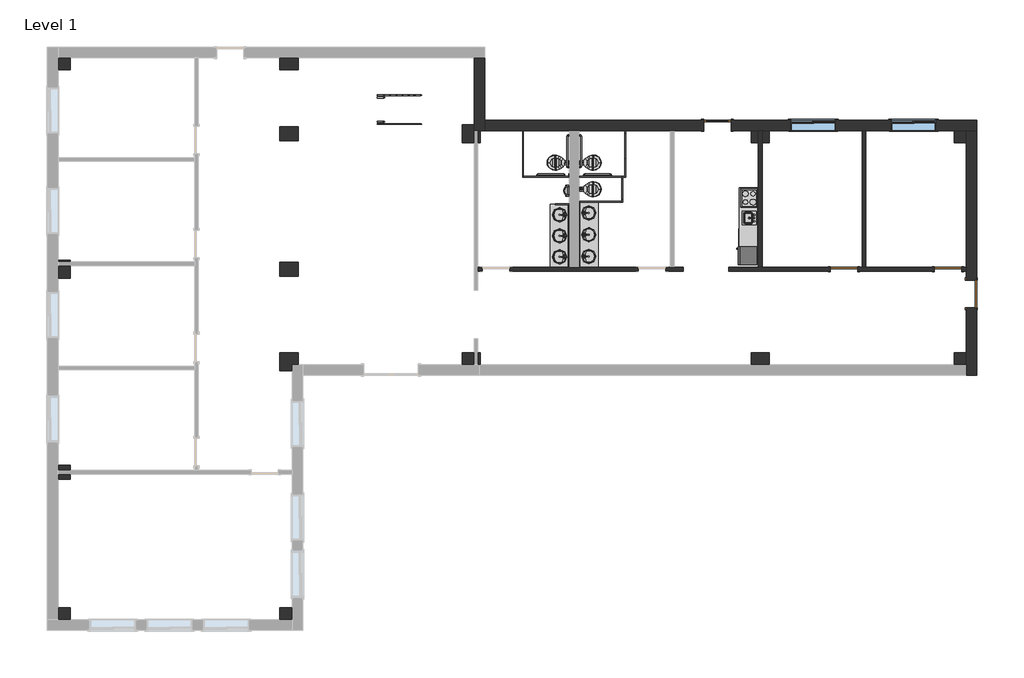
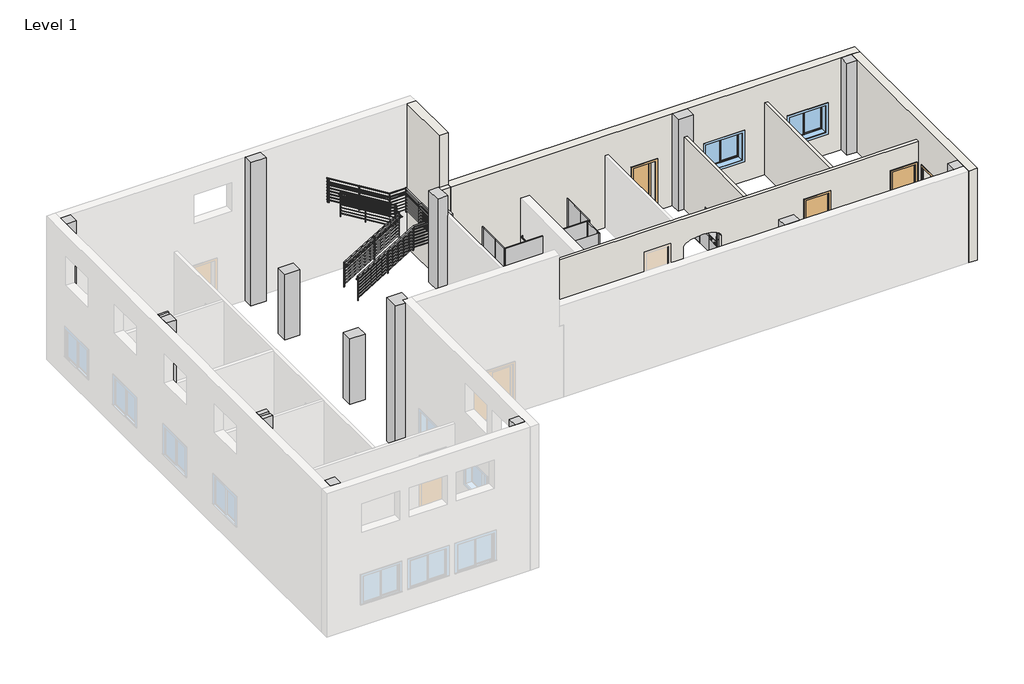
# One storey, part 2 of 2: 15 columns, 13 proxies, 11 flow terminals, 6 walls, 4 doors, 3 furniture elements, 2 railings, 2 windows.
"""IFC4 building model written with IfcOpenShell, lengths in millimetres."""

from ifc_helpers import new_model, si_unit, point, frame, origin, origin_with_axes, place, context, project, spatial, polyline, ellipse_curve, trimmed, outline, extrude, faceted_brep, transform, mapped, element, save
from ifc_brep_helpers import plane_surface, extruded_surface, advanced_brep
from components import specialty_equipment_fe47f8b8, specialty_equipment_a66543ee, specialty_equipment_0732ba0f, proxy_75c98dfb, proxy_14d97774, proxy_deb97b80, proxy_a6faaae8, proxy_45b28599, grab_bar_3d_grab_bar_3d_00f4341b, grab_bar_3d_grab_bar_3d_a3ed3e83, kitchenette_medium_kitchenette_medium_844211aa, proxy_c523a7b7, door_cc5399a4, door_88503111, door_14e9a3b2, flow_terminal_871c2e40, flow_terminal_5184717d, flow_terminal_4f17df5f, flow_terminal_f7b7a87d, urinal_wall_3d_urinal_wall_3d_b67806af, furniture_c6510c7c, furniture_b8c66f15, furniture_0f6f437d, guardrail_pipe_ca991ecf, guardrail_pipe_215c56c1, window_8313e728

model = new_model("IFC4")

# Units and contexts
model_context = context("Model", 3, world=origin())
ifc_project = project(units=[si_unit("LENGTHUNIT", "METRE", prefix="MILLI")], contexts=[model_context])

# Site, building, storey
site = spatial("IfcSite", under=ifc_project)
building = spatial("IfcBuilding", under=site)
storey = spatial("IfcBuildingStorey", under=building, Name="Level 1", Elevation=0.0)

# Proxies
placement = place(None, origin())
specialty_equipment_shape = specialty_equipment_fe47f8b8(model_context)
element("IfcBuildingElementProxy", 1, Name="Dispencer-Toilet Paper-2D : Dispencer-Toilet Paper-2D", ObjectType="Dispencer-Toilet Paper-2D : Dispencer-Toilet Paper-2D", at=placement, inside=storey, context=model_context, shape_type="MappedRepresentation", body=[
    mapped(specialty_equipment_shape, transform((3856.5733448, 6606.3605424, 0.0), x_axis=(0.0, -1.0, 0.0), y_axis=(1.0, 0.0, 0.0), z_axis=(0.0, 0.0, 1.0))),
])
specialty_equipment_2_shape = specialty_equipment_a66543ee(model_context)
element("IfcBuildingElementProxy", 2, Name="Dispencer-Toilet Paper-2D : Dispencer-Toilet Paper-2D", ObjectType="Dispencer-Toilet Paper-2D : Dispencer-Toilet Paper-2D", at=placement, inside=storey, context=model_context, shape_type="MappedRepresentation", body=[
    mapped(specialty_equipment_2_shape, transform((3513.6733448, 6606.3605424, 0.0), x_axis=(0.0, -1.0, 0.0), y_axis=(1.0, 0.0, 0.0), z_axis=(0.0, 0.0, 1.0))),
])
element("IfcBuildingElementProxy", 3, Name="Dispencer-Toilet Paper-2D : Dispencer-Toilet Paper-2D", ObjectType="Dispencer-Toilet Paper-2D : Dispencer-Toilet Paper-2D", at=placement, inside=storey, context=model_context, shape_type="MappedRepresentation", body=[
    mapped(specialty_equipment_2_shape, transform((3856.5733448, 6580.9605424, 0.0), x_axis=(0.0, 1.0, 0.0), y_axis=(-1.0, 0.0, 0.0), z_axis=(0.0, 0.0, 1.0))),
])
specialty_equipment_3_shape = specialty_equipment_0732ba0f(model_context)
element("IfcBuildingElementProxy", 4, Name="Urinal Screen-3D w Urinal : 36\" O.C.", ObjectType="Urinal Screen-3D w Urinal : 36\" O.C.", at=placement, inside=storey, context=model_context, shape_type="MappedRepresentation", body=[
    mapped(specialty_equipment_3_shape, transform((3685.1233448, 5666.5605424, 0.0), x_axis=(0.0, 1.0, 0.0), y_axis=(-1.0, 0.0, 0.0), z_axis=(0.0, 0.0, 1.0))),
])
proxy_shape = proxy_75c98dfb(model_context)
element("IfcBuildingElementProxy", 5, Name="Toilet Stall-3D w Toilet : 32\" x 56\" Clear", ObjectType="Toilet Stall-3D w Toilet : 32\" x 56\" Clear", at=placement, inside=storey, context=model_context, shape_type="MappedRepresentation", body=[
    mapped(proxy_shape, transform((3685.1233448, 5769.6573886, 0.0), x_axis=(0.0, 1.0, 0.0), y_axis=(-1.0, 0.0, 0.0), z_axis=(0.0, 0.0, 1.0))),
])
proxy_2_shape = proxy_14d97774(model_context)
element("IfcBuildingElementProxy", 6, Name="Toilet Stall-Accessible-Front-3D w Toilet : 60\" x 60\" Clear", ObjectType="Toilet Stall-Accessible-Front-3D w Toilet : 60\" x 60\" Clear", at=placement, inside=storey, context=model_context, shape_type="MappedRepresentation", body=[
    mapped(proxy_2_shape, transform((3685.1233448, 6658.6573886, 0.0), x_axis=(0.0, 1.0, 0.0), y_axis=(-1.0, 0.0, 0.0), z_axis=(0.0, 0.0, 1.0))),
])
proxy_3_shape = proxy_deb97b80(model_context)
element("IfcBuildingElementProxy", 7, Name="Toilet Stall-Accessible-Front-3D w Toilet : 60\" x 60\" Clear", ObjectType="Toilet Stall-Accessible-Front-3D w Toilet : 60\" x 60\" Clear", at=placement, inside=storey, context=model_context, shape_type="MappedRepresentation", body=[
    mapped(proxy_3_shape, transform((3685.1233448, 6658.6573886, 0.0), x_axis=(0.0, 1.0, 0.0), y_axis=(-1.0, 0.0, 0.0), z_axis=(0.0, 0.0, 1.0))),
])
proxy_4_shape = proxy_a6faaae8(model_context)
element("IfcBuildingElementProxy", 8, Name="Cook Top-4 Unit2 : 22\" x 20\"", ObjectType="Cook Top-4 Unit2 : 22\" x 20\"", at=placement, inside=storey, context=model_context, shape_type="MappedRepresentation", body=[
    mapped(proxy_4_shape, transform((9542.9983448, 5882.4605424, 0.0), x_axis=(0.0, -1.0, 0.0), y_axis=(1.0, 0.0, 0.0), z_axis=(0.0, 0.0, 1.0))),
])
proxy_5_shape = proxy_45b28599(model_context)
element("IfcBuildingElementProxy", 9, Name="Dishwasher : 24\" x 24\" x 34\"", ObjectType="Dishwasher : 24\" x 24\" x 34\"", at=placement, inside=storey, context=model_context, shape_type="MappedRepresentation", body=[
    mapped(proxy_5_shape, transform((9251.14878, 4931.2780109, 0.0), x_axis=(0.0, -1.0, 0.0), y_axis=(1.0, 0.0, 0.0), z_axis=(0.0, 0.0, 1.0))),
])
grab_bar_3d_grab_bar_3d_shape = grab_bar_3d_grab_bar_3d_00f4341b(model_context)
element("IfcBuildingElementProxy", 10, Name="Grab Bar-3D : Grab Bar-3D", ObjectType="Grab Bar-3D : Grab Bar-3D", at=placement, inside=storey, context=model_context, shape_type="MappedRepresentation", body=[
    mapped(grab_bar_3d_grab_bar_3d_shape, transform((3513.6733448, 6606.3605424, 0.0), x_axis=(1.0, 0.0, 0.0), y_axis=(0.0, 1.0, 0.0), z_axis=(0.0, 0.0, 1.0))),
])
grab_bar_3d_grab_bar_3d_2_shape = grab_bar_3d_grab_bar_3d_a3ed3e83(model_context)
element("IfcBuildingElementProxy", 11, Name="Grab Bar-3D : Grab Bar-3D", ObjectType="Grab Bar-3D : Grab Bar-3D", at=placement, inside=storey, context=model_context, shape_type="MappedRepresentation", body=[
    mapped(grab_bar_3d_grab_bar_3d_2_shape, transform((3856.5733448, 6606.3605424, 0.0), x_axis=(-1.0, 0.0, 0.0), y_axis=(0.0, -1.0, 0.0), z_axis=(0.0, 0.0, 1.0))),
])
kitchenette_medium_kitchenette_medium_shape = kitchenette_medium_kitchenette_medium_844211aa(model_context)
element("IfcBuildingElementProxy", 12, Name="Kitchenette - Medium : Kitchenette - Medium", ObjectType="Kitchenette - Medium : Kitchenette - Medium", at=placement, inside=storey, context=model_context, shape_type="MappedRepresentation", body=[
    mapped(kitchenette_medium_kitchenette_medium_shape, transform((9847.7983448, 5558.2982474, 0.0), x_axis=(0.0, -1.0, 0.0), y_axis=(1.0, 0.0, 0.0), z_axis=(0.0, 0.0, 1.0))),
])
proxy_6_shape = proxy_c523a7b7(model_context)
element("IfcBuildingElementProxy", 13, Name="Refrigerator : 24\" x 25\" LH", ObjectType="Refrigerator : 24\" x 25\" LH", at=placement, inside=storey, context=model_context, shape_type="MappedRepresentation", body=[
    mapped(proxy_6_shape, transform((9497.3493733, 3945.7105424, 0.0), x_axis=(0.0, -1.0, 0.0), y_axis=(1.0, 0.0, 0.0), z_axis=(0.0, 0.0, 1.0))),
])

# Columns
element("IfcColumn", 14, ObjectType="Rectangular Column : 18\" x 24\"", at=placement, inside=storey, context=model_context, shape_type="SweptSolid", body=[
    extrude(outline(polyline([(-3066.2769576, 6100.0), (-3066.2769576, 0.0), (-3232.9644576, 0.0), (-3232.9644576, 3060.0), (-3232.9644576, 6100.0), (-3066.2769576, 6100.0)])), frame((-13583.7016552, 0.0, 0.0), z_axis=(1.0, 0.0, 0.0), x_axis=(0.0, 1.0, 0.0)), (0.0, 0.0, 1.0), 406.4),
    extrude(outline(polyline([(-3523.4769576, 0.0), (-3523.4769576, 6100.0), (-3356.7894576, 6100.0), (-3356.7894576, 3060.0), (-3356.7894576, 0.0), (-3523.4769576, 0.0)])), frame((-13583.7016552, 0.0, 0.0), z_axis=(1.0, 0.0, 0.0), x_axis=(0.0, 1.0, 0.0)), (0.0, 0.0, 1.0), 406.4),
])
element("IfcColumn", 15, ObjectType="Rectangular Column : 18\" x 24\"", at=placement, inside=storey, context=model_context, shape_type="SweptSolid", body=[
    extrude(outline(polyline([(-5550.9516552, 3725.0480424), (-5550.9516552, 3267.8480424), (-6160.5516552, 3267.8480424), (-6160.5516552, 3725.0480424), (-5550.9516552, 3725.0480424)])), origin_with_axes(), (0.0, 0.0, 1.0), 2782.4),
])
element("IfcColumn", 16, ObjectType="Rectangular Column : 18\" x 24\"", at=placement, inside=storey, context=model_context, shape_type="SweptSolid", body=[
    extrude(outline(polyline([(-5550.9516552, 8257.3605424), (-5550.9516552, 7800.1605424), (-6160.5516552, 7800.1605424), (-6160.5516552, 8257.3605424), (-5550.9516552, 8257.3605424)])), origin_with_axes(), (0.0, 0.0, 1.0), 2782.4),
])
element("IfcColumn", 17, ObjectType="Rectangular Column : 24\" x 24\"", at=placement, inside=storey, context=model_context, shape_type="SweptSolid", body=[
    extrude(outline(polyline([(-13177.3016552, 10162.3605424), (-13583.7016552, 10162.3605424), (-13583.7016552, 10568.7605424), (-13177.3016552, 10568.7605424), (-13177.3016552, 10162.3605424)])), origin_with_axes(), (0.0, 0.0, 1.0), 6100.0),
])
element("IfcColumn", 18, ObjectType="Rectangular Column : 24\" x 24\"", at=placement, inside=storey, context=model_context, shape_type="SweptSolid", body=[
    extrude(outline(polyline([(3729.8105424, 6100.0), (3801.2480424, 6100.0), (3801.2480424, 0.0), (3743.3042924, 0.0), (3743.3042924, 3060.0), (3729.8105424, 3060.0), (3729.8105424, 6100.0)])), frame((-13583.7016552, 0.0, 0.0), z_axis=(1.0, 0.0, 0.0), x_axis=(0.0, 1.0, 0.0)), (0.0, 0.0, 1.0), 406.4),
    extrude(outline(polyline([(3191.6480424, 6100.0), (3605.9855424, 6100.0), (3605.9855424, 3060.0), (3619.4792924, 3060.0), (3619.4792924, 0.0), (3191.6480424, 0.0), (3191.6480424, 6100.0)])), frame((-13583.7016552, 0.0, 0.0), z_axis=(1.0, 0.0, 0.0), x_axis=(0.0, 1.0, 0.0)), (0.0, 0.0, 1.0), 406.4),
])
element("IfcColumn", 19, ObjectType="Rectangular Column : 24\" x 24\"", at=placement, inside=storey, context=model_context, shape_type="SweptSolid", body=[
    extrude(outline(polyline([(-13177.3016552, -7827.1894576), (-13177.3016552, -8233.5894576), (-13583.7016552, -8233.5894576), (-13583.7016552, -7827.1894576), (-13177.3016552, -7827.1894576)])), origin_with_axes(), (0.0, 0.0, 1.0), 6100.0),
])
element("IfcColumn", 20, ObjectType="Rectangular Column : 24\" x 24\"", at=placement, inside=storey, context=model_context, shape_type="SweptSolid", body=[
    extrude(outline(polyline([(-6160.5516552, -7827.1894576), (-5754.1516552, -7827.1894576), (-5754.1516552, -8233.5894576), (-6160.5516552, -8233.5894576), (-6160.5516552, -7827.1894576)])), origin_with_axes(), (0.0, 0.0, 1.0), 6100.0),
])
element("IfcColumn", 21, ObjectType="Rectangular Column : 24\" x 24\"", at=placement, inside=storey, context=model_context, shape_type="SweptSolid", body=[
    extrude(outline(polyline([(-6160.5516552, 97.6105424), (-6160.5516552, 707.2105424), (-5550.9516552, 707.2105424), (-5550.9516552, 300.8105424), (-5754.1516552, 300.8105424), (-5754.1516552, 97.6105424), (-6160.5516552, 97.6105424)])), origin_with_axes(), (0.0, 0.0, 1.0), 6100.0),
])
element("IfcColumn", 22, ObjectType="Rectangular Column : 24\" x 24\"", at=placement, inside=storey, context=model_context, shape_type="SweptSolid", body=[
    extrude(outline(polyline([(3900.0, 341.8483448), (3900.0, -64.5516552), (0.0, -64.5516552), (0.0, 341.8483448), (3060.0, 341.8483448), (3900.0, 341.8483448)])), frame((0.0, 300.8105424, 0.0), z_axis=(0.0, 1.0, 0.0), x_axis=(0.0, 0.0, 1.0)), (0.0, 0.0, 1.0), 406.4),
    extrude(outline(polyline([(465.6733448, 707.2105424), (545.0483448, 707.2105424), (545.0483448, 300.8105424), (518.0608448, 300.8105424), (465.6733448, 300.8105424), (465.6733448, 707.2105424)])), origin_with_axes(), (0.0, 0.0, 1.0), 3060.0),
])
element("IfcColumn", 23, ObjectType="Rectangular Column : 24\" x 24\"", at=placement, inside=storey, context=model_context, shape_type="Brep", body=[
    faceted_brep([(-64.5516552, 8333.5605424, 3900.0), (-64.5516552, 7723.9605424, 3900.0), (341.8483448, 7723.9605424, 3900.0), (341.8483448, 8130.3605424, 3900.0), (341.8483448, 8306.5730424, 3900.0), (341.8483448, 8333.5605424, 3900.0), (-64.5516552, 7723.9605424, 0.0), (-64.5516552, 8333.5605424, 0.0), (341.8483448, 8333.5605424, 0.0), (341.8483448, 8130.3605424, 0.0), (341.8483448, 7723.9605424, 0.0), (341.8483448, 7723.9605424, 3060.0), (341.8483448, 8130.3605424, 3060.0)], [[[0, 1, 2, 3, 4, 5]], [[6, 7, 8, 9, 10]], [[7, 0, 5, 8]], [[1, 0, 7, 6]], [[1, 6, 10, 11, 2]], [[10, 9, 12, 11]], [[3, 2, 11, 12]], [[5, 4, 3, 12, 9, 8]]]),
    faceted_brep([(545.0483448, 7723.9605424, 3060.0), (545.0483448, 7723.9605424, 0.0), (545.0483448, 8130.3605424, 0.0), (545.0483448, 8130.3605424, 3060.0), (465.6733448, 8130.3605424, 0.0), (465.6733448, 7723.9605424, 0.0), (465.6733448, 7723.9605424, 3060.0), (465.6733448, 8130.3605424, 3060.0)], [[[0, 1, 2, 3]], [[4, 5, 6, 7]], [[6, 0, 3, 7]], [[5, 1, 0, 6]], [[2, 4, 7, 3]], [[1, 5, 4, 2]]]),
])
element("IfcColumn", 24, ObjectType="Rectangular Column : 24\" x 24\"", at=placement, inside=storey, context=model_context, shape_type="SweptSolid", body=[
    extrude(outline(polyline([(3900.0, 10214.5108448), (3900.0, 9604.9108448), (0.0, 9604.9108448), (0.0, 9847.7983448), (3060.0, 9847.7983448), (3060.0, 9971.6233448), (0.0, 9971.6233448), (0.0, 10214.5108448), (3900.0, 10214.5108448)])), frame((0.0, 7723.9605424, 0.0), z_axis=(0.0, 1.0, 0.0), x_axis=(0.0, 0.0, 1.0)), (0.0, 0.0, 1.0), 406.4),
])
element("IfcColumn", 25, ObjectType="Rectangular Column : 24\" x 24\"", at=placement, inside=storey, context=model_context, shape_type="SweptSolid", body=[
    extrude(outline(polyline([(16394.6483448, 7723.9605424), (16394.6483448, 8130.3605424), (16801.0483448, 8130.3605424), (16801.0483448, 7723.9605424), (16394.6483448, 7723.9605424)])), origin_with_axes(), (0.0, 0.0, 1.0), 3900.0),
])
element("IfcColumn", 26, ObjectType="Rectangular Column : 24\" x 24\"", at=placement, inside=storey, context=model_context, shape_type="SweptSolid", body=[
    extrude(outline(polyline([(16394.6483448, 707.2105424), (16801.0483448, 707.2105424), (16801.0483448, 300.8105424), (16394.6483448, 300.8105424), (16394.6483448, 707.2105424)])), origin_with_axes(), (0.0, 0.0, 1.0), 3900.0),
])
element("IfcColumn", 27, ObjectType="Rectangular Column : 24\" x 24\"", at=placement, inside=storey, context=model_context, shape_type="SweptSolid", body=[
    extrude(outline(polyline([(9604.9108448, 707.2105424), (10214.5108448, 707.2105424), (10214.5108448, 300.8105424), (9604.9108448, 300.8105424), (9604.9108448, 707.2105424)])), origin_with_axes(), (0.0, 0.0, 1.0), 3900.0),
])
element("IfcColumn", 28, ObjectType="Rectangular Column : 24\" x 24\"", at=placement, inside=storey, context=model_context, shape_type="SweptSolid", body=[
    extrude(outline(polyline([(-5550.9516552, 10162.3605424), (-6160.5516552, 10162.3605424), (-6160.5516552, 10568.7605424), (-5550.9516552, 10568.7605424), (-5550.9516552, 10162.3605424)])), origin_with_axes(), (0.0, 0.0, 1.0), 6100.0),
])

# Doors
door_shape = door_cc5399a4(model_context)
element("IfcDoor", 29, ObjectType="Single-Flush : 36\" x 84\"", at=placement, inside=storey, context=model_context, shape_type="MappedRepresentation", body=[
    mapped(door_shape, transform((16977.2608448, 2672.5355424, 0.0), x_axis=(0.0, 1.0, 0.0), y_axis=(-1.0, 0.0, 0.0), z_axis=(0.0, 0.0, 1.0))),
])
door_2_shape = door_88503111(model_context)
element("IfcDoor", 30, ObjectType="Single-Flush : 36\" x 84\"", at=placement, inside=storey, context=model_context, shape_type="MappedRepresentation", body=[
    mapped(door_2_shape, transform((16191.4483448, 3496.4480424, 0.0), x_axis=(1.0, 0.0, 0.0), y_axis=(0.0, 1.0, 0.0), z_axis=(0.0, 0.0, 1.0))),
])
element("IfcDoor", 31, ObjectType="Single-Flush : 36\" x 84\"", at=placement, inside=storey, context=model_context, shape_type="MappedRepresentation", body=[
    mapped(door_2_shape, transform((12714.8233448, 3496.4480424, 0.0), x_axis=(1.0, 0.0, 0.0), y_axis=(0.0, 1.0, 0.0), z_axis=(0.0, 0.0, 1.0))),
])
door_3_shape = door_14e9a3b2(model_context)
element("IfcDoor", 32, ObjectType="Single-Glass 1 : 36\" x 84\"", at=placement, inside=storey, context=model_context, shape_type="MappedRepresentation", body=[
    mapped(door_3_shape, transform((8476.1983448, 8306.5730424, 0.0), x_axis=(1.0, 0.0, 0.0), y_axis=(0.0, 1.0, 0.0), z_axis=(0.0, 0.0, 1.0))),
])

# Flow terminals
flow_terminal_shape = flow_terminal_871c2e40(model_context)
element("IfcFlowTerminal", 33, ObjectType="Sink Kitchen-Island : 18\" x 18\"", at=placement, inside=storey, context=model_context, shape_type="MappedRepresentation", body=[
    mapped(flow_terminal_shape, transform((9540.6529437, 5225.049783, -14.4), x_axis=(0.0, -1.0, 0.0), y_axis=(1.0, 0.0, 0.0), z_axis=(0.0, 0.0, 1.0))),
])
flow_terminal_2_shape = flow_terminal_5184717d(model_context)
element("IfcFlowTerminal", 34, ObjectType="Sink Vanity-Round : 19\" x 19\"", at=placement, inside=storey, context=model_context, shape_type="MappedRepresentation", body=[
    mapped(flow_terminal_2_shape, transform((4259.2410633, 5282.0421352, 76.2), x_axis=(0.0, 1.0, 0.0), y_axis=(-1.0, 0.0, 0.0), z_axis=(0.0, 0.0, 1.0))),
])
element("IfcFlowTerminal", 35, ObjectType="Sink Vanity-Round : 19\" x 19\"", at=placement, inside=storey, context=model_context, shape_type="MappedRepresentation", body=[
    mapped(flow_terminal_2_shape, transform((4259.2410633, 3825.7754686, 76.2), x_axis=(0.0, 1.0, 0.0), y_axis=(-1.0, 0.0, 0.0), z_axis=(0.0, 0.0, 1.0))),
])
element("IfcFlowTerminal", 36, ObjectType="Sink Vanity-Round : 19\" x 19\"", at=placement, inside=storey, context=model_context, shape_type="MappedRepresentation", body=[
    mapped(flow_terminal_2_shape, transform((4259.2410633, 4553.9088019, 76.2), x_axis=(0.0, 1.0, 0.0), y_axis=(-1.0, 0.0, 0.0), z_axis=(0.0, 0.0, 1.0))),
])
element("IfcFlowTerminal", 37, ObjectType="Sink Vanity-Round : 19\" x 19\"", at=placement, inside=storey, context=model_context, shape_type="MappedRepresentation", body=[
    mapped(flow_terminal_2_shape, transform((3111.0056263, 4006.3789497, 76.2), x_axis=(0.0, -1.0, 0.0), y_axis=(1.0, 0.0, 0.0), z_axis=(0.0, 0.0, 1.0))),
])
element("IfcFlowTerminal", 38, ObjectType="Sink Vanity-Round : 19\" x 19\"", at=placement, inside=storey, context=model_context, shape_type="MappedRepresentation", body=[
    mapped(flow_terminal_2_shape, transform((3111.0056263, 5411.8456163, 76.2), x_axis=(0.0, -1.0, 0.0), y_axis=(1.0, 0.0, 0.0), z_axis=(0.0, 0.0, 1.0))),
])
element("IfcFlowTerminal", 39, ObjectType="Sink Vanity-Round : 19\" x 19\"", at=placement, inside=storey, context=model_context, shape_type="MappedRepresentation", body=[
    mapped(flow_terminal_2_shape, transform((3111.0056263, 4709.112283, 76.2), x_axis=(0.0, -1.0, 0.0), y_axis=(1.0, 0.0, 0.0), z_axis=(0.0, 0.0, 1.0))),
])
flow_terminal_3_shape = flow_terminal_4f17df5f(model_context)
element("IfcFlowTerminal", 40, ObjectType="Toilet-Commercial-Wall-3D1 : 15\" Seat Height 2", at=placement, inside=storey, context=model_context, shape_type="MappedRepresentation", body=[
    mapped(flow_terminal_3_shape, transform((3685.1233448, 6658.6573886, 0.0), x_axis=(0.0, 1.0, 0.0), y_axis=(-1.0, 0.0, 0.0), z_axis=(0.0, 0.0, 1.0))),
])
flow_terminal_4_shape = flow_terminal_f7b7a87d(model_context)
element("IfcFlowTerminal", 41, ObjectType="Toilet-Commercial-Wall-3D1 : 15\" Seat Height 2", at=placement, inside=storey, context=model_context, shape_type="MappedRepresentation", body=[
    mapped(flow_terminal_4_shape, transform((3685.1233448, 6658.6573886, 0.0), x_axis=(0.0, 1.0, 0.0), y_axis=(-1.0, 0.0, 0.0), z_axis=(0.0, 0.0, 1.0))),
])
element("IfcFlowTerminal", 42, ObjectType="Toilet-Commercial-Wall-3D1 : 15\" Seat Height 2", at=placement, inside=storey, context=model_context, shape_type="MappedRepresentation", body=[
    mapped(flow_terminal_4_shape, transform((3685.1233448, 5769.6573886, 0.0), x_axis=(0.0, 1.0, 0.0), y_axis=(-1.0, 0.0, 0.0), z_axis=(0.0, 0.0, 1.0))),
])
urinal_wall_3d_urinal_wall_3d_shape = urinal_wall_3d_urinal_wall_3d_b67806af(model_context)
element("IfcFlowTerminal", 43, ObjectType="Urinal-Wall-3D : Urinal-Wall-3D", at=placement, inside=storey, context=model_context, shape_type="MappedRepresentation", body=[
    mapped(urinal_wall_3d_urinal_wall_3d_shape, transform((3685.1233448, 6232.8351423, 0.0), x_axis=(0.0, 1.0, 0.0), y_axis=(-1.0, 0.0, 0.0), z_axis=(0.0, 0.0, 1.0))),
])

# Furniture
furniture_shape = furniture_c6510c7c(model_context)
element("IfcFurniture", 44, ObjectType="Counter Top w Sink Hole : 24\" Depth", at=placement, inside=storey, context=model_context, shape_type="MappedRepresentation", body=[
    mapped(furniture_shape, transform((9847.7983448, 5024.8982474, -14.4), x_axis=(0.0, -1.0, 0.0), y_axis=(1.0, 0.0, 0.0), z_axis=(0.0, 0.0, 1.0))),
])
furniture_2_shape = furniture_b8c66f15(model_context)
element("IfcFurniture", 45, ObjectType="Counter Top w Sinks-3D : 96\"", at=placement, inside=storey, context=model_context, shape_type="MappedRepresentation", body=[
    mapped(furniture_2_shape, transform((3685.1233448, 4626.6502386, 0.0), x_axis=(0.0, -1.0, 0.0), y_axis=(1.0, 0.0, 0.0), z_axis=(0.0, 0.0, 1.0))),
])
furniture_3_shape = furniture_0f6f437d(model_context)
element("IfcFurniture", 46, ObjectType="Counter Top w Sinks-3D : 96\"", at=placement, inside=storey, context=model_context, shape_type="MappedRepresentation", body=[
    mapped(furniture_3_shape, transform((3685.1233448, 4674.4708462, 0.0), x_axis=(0.0, 1.0, 0.0), y_axis=(-1.0, 0.0, 0.0), z_axis=(0.0, 0.0, 1.0))),
])

# Railings
guardrail_pipe_shape = guardrail_pipe_ca991ecf(model_context)
element("IfcRailing", 47, ObjectType="Guardrail - Pipe", at=placement, inside=storey, context=model_context, shape_type="MappedRepresentation", body=[
    mapped(guardrail_pipe_shape, transform((0.0, 0.0, 0.0), x_axis=(1.0, 0.0, 0.0), y_axis=(0.0, 1.0, 0.0), z_axis=(0.0, 0.0, 1.0))),
])
guardrail_pipe_2_shape = guardrail_pipe_215c56c1(model_context)
element("IfcRailing", 48, ObjectType="Guardrail - Pipe", at=placement, inside=storey, context=model_context, shape_type="MappedRepresentation", body=[
    mapped(guardrail_pipe_2_shape, transform((0.0, 0.0, 0.0), x_axis=(1.0, 0.0, 0.0), y_axis=(0.0, 1.0, 0.0), z_axis=(0.0, 0.0, 1.0))),
])

# Walls
element("IfcWall", 49, ObjectType="Exterior - Brick on Mtl. Stud", at=placement, inside=storey, context=model_context, shape_type="Brep", body=[
    faceted_brep([(341.8483448, 10568.7605424, 0.0), (341.8483448, 8333.5605424, 0.0), (341.8483448, 8130.3605424, 0.0), (341.8483448, 8130.3605424, 3060.0), (341.8483448, 8130.3605424, 3900.0), (341.8483448, 8306.5730424, 3900.0), (341.8483448, 8306.5730424, 6100.0), (341.8483448, 10568.7605424, 6100.0), (694.2733448, 10568.7605424, 0.0), (694.2733448, 10568.7605424, 6100.0), (694.2733448, 8306.5730424, 6100.0), (694.2733448, 8306.5730424, 3900.0), (694.2733448, 8130.3605424, 3900.0), (694.2733448, 8130.3605424, 3060.0), (694.2733448, 8130.3605424, 0.0), (694.2733448, 8482.7855424, 0.0), (545.0483448, 8130.3605424, 0.0), (465.6733448, 8130.3605424, 0.0)], [[[0, 1, 2, 3, 4, 5, 6, 7]], [[8, 9, 10, 11, 12, 13, 14, 15]], [[2, 1, 0, 8, 15, 14, 16, 17]], [[7, 6, 10, 9]], [[6, 5, 11, 10]], [[11, 5, 4, 12]], [[2, 17, 16, 14, 13, 12, 4, 3]], [[0, 7, 9, 8]]]),
])
element("IfcWall", 50, ObjectType="Exterior - Brick on Mtl. Stud", at=placement, inside=storey, context=model_context, shape_type="Brep", body=[
    faceted_brep([(8933.3983448, 8130.3605424, 2133.6), (8933.3983448, 8130.3605424, 0.0), (9604.9108448, 8130.3605424, 0.0), (9847.7983448, 8130.3605424, 0.0), (9971.6233448, 8130.3605424, 0.0), (10214.5108448, 8130.3605424, 0.0), (13324.4233448, 8130.3605424, 0.0), (13448.2483448, 8130.3605424, 0.0), (16394.6483448, 8130.3605424, 0.0), (16801.0483448, 8130.3605424, 0.0), (17153.4733448, 8130.3605424, 0.0), (17153.4733448, 8130.3605424, 3900.0), (16801.0483448, 8130.3605424, 3900.0), (16394.6483448, 8130.3605424, 3900.0), (10214.5108448, 8130.3605424, 3900.0), (9604.9108448, 8130.3605424, 3900.0), (694.2733448, 8130.3605424, 3900.0), (694.2733448, 8130.3605424, 0.0), (3513.6733448, 8130.3605424, 0.0), (3856.5733448, 8130.3605424, 0.0), (6904.5733448, 8130.3605424, 0.0), (7028.3983448, 8130.3605424, 0.0), (8018.9983448, 8130.3605424, 0.0), (8018.9983448, 8130.3605424, 2133.6), (12444.9483448, 8130.3605424, 2133.6), (12444.9483448, 8130.3605424, 914.4), (10920.9483448, 8130.3605424, 914.4), (10920.9483448, 8130.3605424, 2133.6), (15804.0983448, 8130.3605424, 2133.6), (15804.0983448, 8130.3605424, 914.4), (14280.0983448, 8130.3605424, 914.4), (14280.0983448, 8130.3605424, 2133.6), (17153.4733448, 8482.7855424, 0.0), (8933.3983448, 8482.7855424, 0.0), (8933.3983448, 8482.7855424, 2133.6), (8018.9983448, 8482.7855424, 2133.6), (8018.9983448, 8482.7855424, 0.0), (694.2733448, 8482.7855424, 0.0), (694.2733448, 8482.7855424, 3900.0), (17153.4733448, 8482.7855424, 3900.0), (12444.9483448, 8482.7855424, 2133.6), (10920.9483448, 8482.7855424, 2133.6), (10920.9483448, 8482.7855424, 914.4), (12444.9483448, 8482.7855424, 914.4), (15804.0983448, 8482.7855424, 2133.6), (14280.0983448, 8482.7855424, 2133.6), (14280.0983448, 8482.7855424, 914.4), (15804.0983448, 8482.7855424, 914.4), (694.2733448, 8306.5730424, 3900.0)], [[[0, 1, 2, 3, 4, 5, 6, 7, 8, 9, 10, 11, 12, 13, 14, 15, 16, 17, 18, 19, 20, 21, 22, 23], [24, 25, 26, 27], [28, 29, 30, 31]], [[32, 33, 34, 35, 36, 37, 38, 39], [40, 41, 42, 43], [44, 45, 46, 47]], [[10, 9, 8, 7, 6, 5, 4, 3, 2, 1, 33, 32]], [[22, 21, 20, 19, 18, 17, 37, 36]], [[16, 15, 14, 13, 12, 11, 39, 38, 48]], [[34, 33, 1, 0]], [[35, 34, 0, 23]], [[36, 35, 23, 22]], [[25, 24, 40, 43]], [[26, 25, 43, 42]], [[27, 26, 42, 41]], [[24, 27, 41, 40]], [[29, 28, 44, 47]], [[30, 29, 47, 46]], [[31, 30, 46, 45]], [[28, 31, 45, 44]], [[11, 10, 32, 39]], [[16, 48, 38, 37, 17]]]),
])
element("IfcWall", 51, ObjectType="Exterior - Brick on Mtl. Stud", at=placement, inside=storey, context=model_context, shape_type="Brep", body=[
    faceted_brep([(16801.0483448, 8130.3605424, 0.0), (16801.0483448, 7723.9605424, 0.0), (16801.0483448, 3558.3605424, 0.0), (16801.0483448, 3434.5355424, 0.0), (16801.0483448, 3129.7355424, 0.0), (16801.0483448, 3129.7355424, 2133.6), (16801.0483448, 2215.3355424, 2133.6), (16801.0483448, 2215.3355424, 0.0), (16801.0483448, 707.2105424, 0.0), (16801.0483448, 300.8105424, 0.0), (16801.0483448, -51.6144576, 0.0), (16801.0483448, -51.6144576, 3900.0), (16801.0483448, 300.8105424, 3900.0), (16801.0483448, 707.2105424, 3900.0), (16801.0483448, 7723.9605424, 3900.0), (16801.0483448, 8130.3605424, 3900.0), (17153.4733448, 3129.7355424, 2133.6), (17153.4733448, 3129.7355424, 0.0), (17153.4733448, 8130.3605424, 0.0), (17153.4733448, 8130.3605424, 3900.0), (17153.4733448, -51.6144576, 3900.0), (17153.4733448, -51.6144576, 0.0), (17153.4733448, 2215.3355424, 0.0), (17153.4733448, 2215.3355424, 2133.6)], [[[0, 1, 2, 3, 4, 5, 6, 7, 8, 9, 10, 11, 12, 13, 14, 15]], [[16, 17, 18, 19, 20, 21, 22, 23]], [[22, 21, 10, 9, 8, 7]], [[18, 17, 4, 3, 2, 1, 0]], [[15, 14, 13, 12, 11, 20, 19]], [[5, 4, 17, 16]], [[6, 5, 16, 23]], [[7, 6, 23, 22]], [[11, 10, 21, 20]], [[0, 15, 19, 18]]]),
])
element("IfcWall", 52, ObjectType="Interior - 4 7/8\" Partition (1-hr)", at=placement, inside=storey, context=model_context, shape_type="AdvancedBrep", body=[
    advanced_brep(
    [(8857.1983448, 3434.5355424, 1828.8), (8857.1983448, 3434.5355424, 0.0), (12257.6233448, 3434.5355424, 0.0), (12257.6233448, 3434.5355424, 2133.6), (13172.0233448, 3434.5355424, 2133.6), (13172.0233448, 3434.5355424, 0.0), (15734.2483448, 3434.5355424, 0.0), (15734.2483448, 3434.5355424, 2133.6), (16648.6483448, 3434.5355424, 2133.6), (16648.6483448, 3434.5355424, 0.0), (16801.0483448, 3434.5355424, 0.0), (16801.0483448, 3434.5355424, 3060.0), (465.6733448, 3434.5355424, 3060.0), (465.6733448, 3434.5355424, 0.0), (618.0733448, 3434.5355424, 0.0), (618.0733448, 3434.5355424, 2133.6), (1532.4733448, 3434.5355424, 2133.6), (1532.4733448, 3434.5355424, 0.0), (5837.7733448, 3434.5355424, 0.0), (5837.7733448, 3434.5355424, 2133.6), (6752.1733448, 3434.5355424, 2133.6), (6752.1733448, 3434.5355424, 0.0), (7333.1983448, 3434.5355424, 0.0), (7333.1983448, 3434.5355424, 1828.8), (12257.6233448, 3558.3605424, 0.0), (9971.6233448, 3558.3605424, 0.0), (9847.7983448, 3558.3605424, 0.0), (8857.1983448, 3558.3605424, 0.0), (8857.1983448, 3558.3605424, 1828.8), (7333.1983448, 3558.3605424, 1828.8), (7333.1983448, 3558.3605424, 0.0), (7028.3983448, 3558.3605424, 0.0), (6904.5733448, 3558.3605424, 0.0), (6752.1733448, 3558.3605424, 0.0), (6752.1733448, 3558.3605424, 2133.6), (5837.7733448, 3558.3605424, 2133.6), (5837.7733448, 3558.3605424, 0.0), (3856.5733448, 3558.3605424, 0.0), (3513.6733448, 3558.3605424, 0.0), (1532.4733448, 3558.3605424, 0.0), (1532.4733448, 3558.3605424, 2133.6), (618.0733448, 3558.3605424, 2133.6), (618.0733448, 3558.3605424, 0.0), (465.6733448, 3558.3605424, 0.0), (465.6733448, 3558.3605424, 3060.0), (6904.5733448, 3558.3605424, 3060.0), (7028.3983448, 3558.3605424, 3060.0), (9847.7983448, 3558.3605424, 3060.0), (9971.6233448, 3558.3605424, 3060.0), (13324.4233448, 3558.3605424, 3060.0), (13448.2483448, 3558.3605424, 3060.0), (16801.0483448, 3558.3605424, 3060.0), (16801.0483448, 3558.3605424, 0.0), (16648.6483448, 3558.3605424, 0.0), (16648.6483448, 3558.3605424, 2133.6), (15734.2483448, 3558.3605424, 2133.6), (15734.2483448, 3558.3605424, 0.0), (13448.2483448, 3558.3605424, 0.0), (13324.4233448, 3558.3605424, 0.0), (13172.0233448, 3558.3605424, 0.0), (13172.0233448, 3558.3605424, 2133.6), (12257.6233448, 3558.3605424, 2133.6)],
    [
        (0, 1),
        (1, 2),
        (2, 3),
        (3, 4),
        (4, 5),
        (5, 6),
        (6, 7),
        (7, 8),
        (8, 9),
        (9, 10),
        (10, 11),
        (11, 12),
        (12, 13),
        (13, 14),
        (14, 15),
        (15, 16),
        (16, 17),
        (17, 18),
        (18, 19),
        (19, 20),
        (20, 21),
        (21, 22),
        (22, 23),
        (23, 0, ellipse_curve(frame((8095.1983448, 3434.5355424, 1828.8), z_axis=(0.0, 1.0, 0.0), x_axis=(1.0, 0.0, 0.0)), 762.0, 304.8)),
        (24, 25),
        (25, 26),
        (26, 27),
        (27, 28),
        (28, 29, ellipse_curve(frame((8095.1983448, 3558.3605424, 1828.8), z_axis=(0.0, -1.0, 0.0), x_axis=(1.0, 0.0, 0.0)), 762.0, 304.8)),
        (29, 30),
        (30, 31),
        (31, 32),
        (32, 33),
        (33, 34),
        (34, 35),
        (35, 36),
        (36, 37),
        (37, 38),
        (38, 39),
        (39, 40),
        (40, 41),
        (41, 42),
        (42, 43),
        (43, 44),
        (44, 45),
        (45, 46),
        (46, 47),
        (47, 48),
        (48, 49),
        (49, 50),
        (50, 51),
        (51, 52),
        (52, 53),
        (53, 54),
        (54, 55),
        (55, 56),
        (56, 57),
        (57, 58),
        (58, 59),
        (59, 60),
        (60, 61),
        (61, 24),
        (9, 53),
        (52, 10),
        (5, 59),
        (56, 6),
        (42, 14),
        (13, 43),
        (36, 18),
        (17, 39),
        (21, 33),
        (30, 22),
        (1, 27),
        (24, 2),
        (11, 51),
        (44, 12),
        (8, 54),
        (7, 55),
        (4, 60),
        (3, 61),
        (20, 34),
        (19, 35),
        (41, 15),
        (40, 16),
        (28, 0),
        (23, 29),
    ],
    [
        plane_surface(frame((2521.2785775, 3434.5355424, 0.0), z_axis=(0.0, -1.0, 0.0), x_axis=(1.0, 0.0, 0.0))),
        plane_surface(frame((2521.2785775, 3558.3605424, 0.0), z_axis=(0.0, 1.0, 0.0), x_axis=(-1.0, 0.0, 0.0))),
        plane_surface(frame((403.7608448, 3434.5355424, 0.0), z_axis=(0.0, 0.0, -1.0), x_axis=(0.0, 1.0, 0.0))),
        plane_surface(frame((16977.2608448, 3434.5355424, 3060.0), z_axis=(0.0, 0.0, 1.0), x_axis=(0.0, 1.0, 0.0))),
        plane_surface(frame((465.6733448, 8306.5730424, 0.0), z_axis=(-1.0, 0.0, 0.0), x_axis=(0.0, 1.0, 0.0))),
        plane_surface(frame((16648.6483448, 3558.3605424, 0.0), z_axis=(-1.0, 0.0, 0.0), x_axis=(0.0, -1.0, 0.0))),
        plane_surface(frame((16648.6483448, 3558.3605424, 2133.6), z_axis=(0.0, 0.0, -1.0), x_axis=(0.0, -1.0, 0.0))),
        plane_surface(frame((15734.2483448, 3558.3605424, 2133.6), z_axis=(1.0, 0.0, 0.0), x_axis=(0.0, -1.0, 0.0))),
        plane_surface(frame((13172.0233448, 3558.3605424, 0.0), z_axis=(-1.0, 0.0, 0.0), x_axis=(0.0, -1.0, 0.0))),
        plane_surface(frame((13172.0233448, 3558.3605424, 2133.6), z_axis=(0.0, 0.0, -1.0), x_axis=(0.0, -1.0, 0.0))),
        plane_surface(frame((12257.6233448, 3558.3605424, 2133.6), z_axis=(1.0, 0.0, 0.0), x_axis=(0.0, -1.0, 0.0))),
        plane_surface(frame((6752.1733448, 3558.3605424, 0.0), z_axis=(-1.0, 0.0, 0.0), x_axis=(0.0, -1.0, 0.0))),
        plane_surface(frame((6752.1733448, 3558.3605424, 2133.6), z_axis=(0.0, 0.0, -1.0), x_axis=(0.0, -1.0, 0.0))),
        plane_surface(frame((5837.7733448, 3558.3605424, 2133.6), z_axis=(1.0, 0.0, 0.0), x_axis=(0.0, -1.0, 0.0))),
        plane_surface(frame((618.0733448, 3434.5355424, 0.0), z_axis=(1.0, 0.0, 0.0), x_axis=(0.0, 1.0, 0.0))),
        plane_surface(frame((618.0733448, 3434.5355424, 2133.6), z_axis=(0.0, 0.0, -1.0), x_axis=(0.0, 1.0, 0.0))),
        plane_surface(frame((1532.4733448, 3434.5355424, 2133.6), z_axis=(-1.0, 0.0, 0.0), x_axis=(0.0, 1.0, 0.0))),
        extruded_surface(trimmed(ellipse_curve(frame((8095.1983448, 3310.7105424, 1828.8), z_axis=(0.0, -1.0, 0.0), x_axis=(1.0, 0.0, 0.0)), 762.0, 304.8), [point((8857.1983448, 3310.7105424, 1828.8))], [point((7333.1983448, 3310.7105424, 1828.8))], True, "CARTESIAN"), (0.0, 123.82499999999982, 0.0), 123.82499999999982),
        plane_surface(frame((7333.1983448, 3558.3605424, 1828.8), z_axis=(1.0, 0.0, 0.0), x_axis=(0.0, -1.0, 0.0))),
        plane_surface(frame((8857.1983448, 3558.3605424, 0.0), z_axis=(-1.0, 0.0, 0.0), x_axis=(0.0, -1.0, 0.0))),
        plane_surface(frame((16801.0483448, 7181.0355424, 0.0), z_axis=(1.0, 0.0, 0.0), x_axis=(0.0, -1.0, 0.0))),
    ],
    [
        (0, [[1, 2, 3, 4, 5, 6, 7, 8, 9, 10, 11, 12, 13, 14, 15, 16, 17, 18, 19, 20, 21, 22, 23, 24]]),
        (1, [[25, 26, 27, 28, 29, 30, 31, 32, 33, 34, 35, 36, 37, 38, 39, 40, 41, 42, 43, 44, 45, 46, 47, 48, 49, 50, 51, 52, 53, 54, 55, 56, 57, 58, 59, 60, 61, 62]]),
        (2, [[-10, 63, -53, 64]]),
        (2, [[-6, 65, -59, -58, -57, 66]]),
        (2, [[-43, 67, -14, 68]]),
        (2, [[-39, -38, -37, 69, -18, 70]]),
        (2, [[-22, 71, -33, -32, -31, 72]]),
        (2, [[-2, 73, -27, -26, -25, 74]]),
        (3, [[-12, 75, -51, -50, -49, -48, -47, -46, -45, 76]]),
        (4, [[-13, -76, -44, -68]]),
        (5, [[-54, -63, -9, 77]]),
        (6, [[-55, -77, -8, 78]]),
        (7, [[-56, -78, -7, -66]]),
        (8, [[-60, -65, -5, 79]]),
        (9, [[-61, -79, -4, 80]]),
        (10, [[-62, -80, -3, -74]]),
        (11, [[-34, -71, -21, 81]]),
        (12, [[-35, -81, -20, 82]]),
        (13, [[-36, -82, -19, -69]]),
        (14, [[-15, -67, -42, 83]]),
        (15, [[-16, -83, -41, 84]]),
        (16, [[-17, -84, -40, -70]]),
        (17, [[-29, 85, -24, 86]]),
        (18, [[-30, -86, -23, -72]]),
        (19, [[-28, -73, -1, -85]]),
        (20, [[-11, -64, -52, -75]]),
    ],
),
])
element("IfcWall", 53, ObjectType="Interior - 4 7/8\" Partition (1-hr)", at=placement, inside=storey, context=model_context, shape_type="Brep", body=[
    faceted_brep([(9847.7983448, 8130.3605424, 0.0), (9847.7983448, 7723.9605424, 0.0), (9847.7983448, 3558.3605424, 0.0), (9847.7983448, 3558.3605424, 3060.0), (9847.7983448, 7723.9605424, 3060.0), (9847.7983448, 8130.3605424, 3060.0), (9971.6233448, 8130.3605424, 0.0), (9971.6233448, 8130.3605424, 3060.0), (9971.6233448, 7723.9605424, 3060.0), (9971.6233448, 3558.3605424, 3060.0), (9971.6233448, 3558.3605424, 0.0), (9971.6233448, 7723.9605424, 0.0)], [[[0, 1, 2, 3, 4, 5]], [[6, 7, 8, 9, 10, 11]], [[2, 1, 0, 6, 11, 10]], [[5, 4, 3, 9, 8, 7]], [[3, 2, 10, 9]], [[0, 5, 7, 6]]]),
])
element("IfcWall", 54, ObjectType="Interior - 4 7/8\" Partition (1-hr)", at=placement, inside=storey, context=model_context, shape_type="SweptSolid", body=[
    extrude(outline(polyline([(13324.4233448, 3558.3605424), (13324.4233448, 8130.3605424), (13448.2483448, 8130.3605424), (13448.2483448, 3558.3605424), (13324.4233448, 3558.3605424)])), origin_with_axes(), (0.0, 0.0, 1.0), 3060.0),
])

# Windows
window_shape = window_8313e728(model_context)
element("IfcWindow", 55, ObjectType="Slider with Trim : 60\" x 48\"", at=placement, inside=storey, context=model_context, shape_type="MappedRepresentation", body=[
    mapped(window_shape, transform((11682.9483448, 8306.5730424, 0.0), x_axis=(1.0, 0.0, 0.0), y_axis=(0.0, 1.0, 0.0), z_axis=(0.0, 0.0, 1.0))),
])
element("IfcWindow", 56, ObjectType="Slider with Trim : 60\" x 48\"", at=placement, inside=storey, context=model_context, shape_type="MappedRepresentation", body=[
    mapped(window_shape, transform((15042.0983448, 8306.5730424, 0.0), x_axis=(1.0, 0.0, 0.0), y_axis=(0.0, 1.0, 0.0), z_axis=(0.0, 0.0, 1.0))),
])

save(model, "model.ifc")
